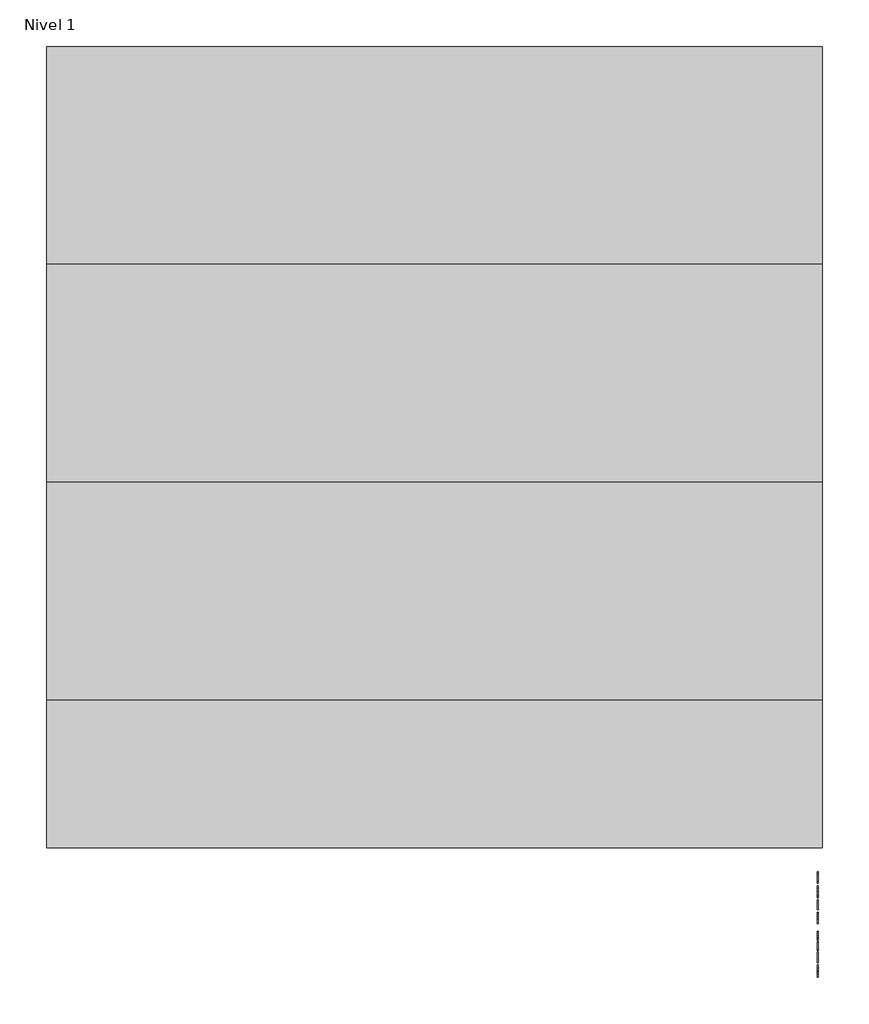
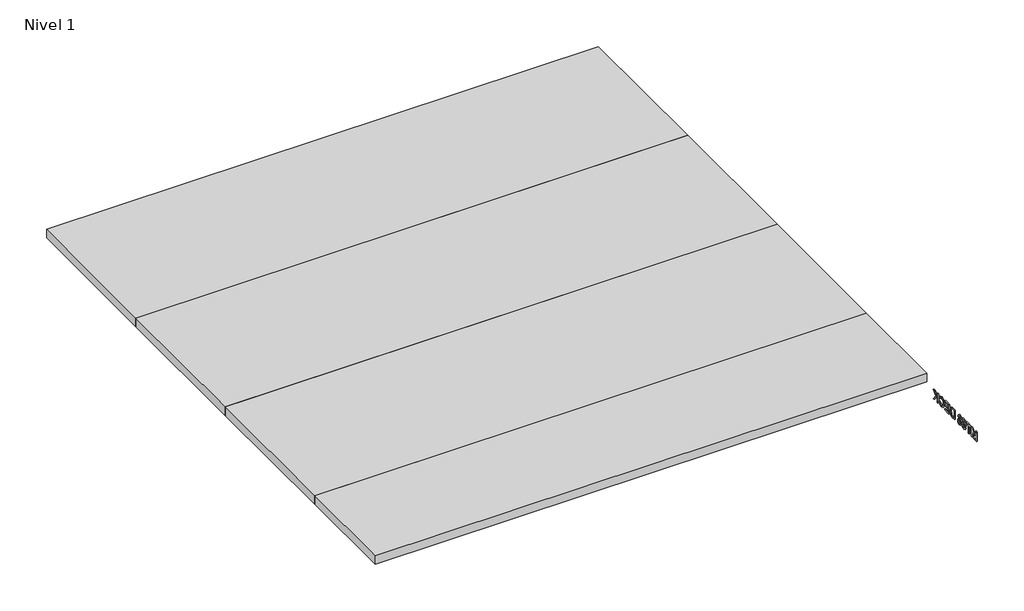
# One storey: 4 plates, 1 proxy.
"""IFC4 building model written with IfcOpenShell, lengths in millimetres."""

from ifc_helpers import new_model, si_unit, frame, origin, place, context, project, spatial, polyline, outline, extrude, transform, mapped, element, save
from components import panel_del_sistema_d37c4fc5, panel_del_sistema_70dac859

model = new_model("IFC4")

# Units and contexts
model_context = context("Model", 3, world=origin())
ifc_project = project(units=[si_unit("LENGTHUNIT", "METRE", prefix="MILLI")], contexts=[model_context])

# Site, building, storey
site = spatial("IfcSite", under=ifc_project)
building = spatial("IfcBuilding", under=site)
storey = spatial("IfcBuildingStorey", under=building, Name="Nivel 1", Elevation=0.0)

# Proxy
placement = place(None, origin())
element("IfcBuildingElementProxy", 1, Name="100mm Arial", ObjectType="100mm Arial", at=placement, inside=storey, context=model_context, shape_type="SweptSolid", body=[
    extrude(outline(polyline([(14730.9542925, -67.141573), (14730.9542925, -6.8677869), (14743.918454, -6.8677869), (14756.2498585, -49.3507997), (14758.7367408, -58.2241135), (14761.429637, -48.6150358), (14773.5550276, -6.8677869), (14786.5191891, -6.8677869), (14786.5191891, -67.141573), (14778.9849658, -67.141573), (14778.9849658, -14.4020102), (14763.8429429, -67.141573), (14753.6305387, -67.141573), (14738.4885158, -14.4020102), (14738.4885158, -67.141573), (14730.9542925, -67.141573)])), frame((9557.0230098, 0.0, 0.0), z_axis=(1.0, 0.0, 0.0), x_axis=(0.0, 1.0, 0.0)), (0.0, 0.0, 1.0), 5.0),
    extrude(outline(polyline([(14814.7725263, -67.141573), (14814.7725263, -14.4020102), (14794.9951902, -14.4020102), (14794.9951902, -6.8677869), (14842.0840856, -6.8677869), (14842.0840856, -14.4020102), (14822.3067496, -14.4020102), (14822.3067496, -67.141573), (14814.7725263, -67.141573)])), frame((9557.0230098, 0.0, 0.0), z_axis=(1.0, 0.0, 0.0), x_axis=(0.0, 1.0, 0.0)), (0.0, 0.0, 1.0), 5.0),
    extrude(outline(polyline([(14847.7347531, -51.1313486), (14855.2689763, -50.1895707), (14859.0655185, -57.9518808), (14866.9381932, -60.5491277), (14876.3854029, -56.9365265), (14879.7552019, -47.3495217), (14876.5987744, -38.4026316), (14867.0559155, -35.1211242), (14860.4413972, -36.4307841), (14856.2107542, -39.8300137), (14848.676531, -38.8882358), (14855.2689763, -7.8095648), (14884.4640915, -7.8095648), (14884.4640915, -15.3437881), (14861.3611022, -15.3437881), (14858.1384559, -31.9426237), (14869.1602005, -27.5869009), (14882.0434279, -32.9874086), (14887.2894252, -46.8786327), (14882.5658204, -60.8581486), (14875.7820764, -66.2770503), (14866.9087627, -68.0833509), (14853.6135074, -63.4406802), (14847.7347531, -51.1313486)])), frame((9557.0230098, 0.0, 0.0), z_axis=(1.0, 0.0, 0.0), x_axis=(0.0, 1.0, 0.0)), (0.0, 0.0, 1.0), 5.0),
    extrude(outline(polyline([(14932.4947648, -22.8780114), (14924.9605415, -23.8197893), (14922.1057772, -17.5363648), (14914.5568387, -14.4020102), (14907.7583794, -16.2267049), (14902.6153891, -23.0766676), (14900.4743159, -36.5043605), (14907.1182647, -30.4931687), (14915.3514638, -28.5286788), (14928.1537572, -33.8997559), (14933.4365427, -47.7762648), (14930.9496604, -58.17261), (14924.1070553, -65.5302499), (14914.2331025, -68.0833509), (14905.6853644, -66.3910938), (14898.877708, -61.3143222), (14894.4244965, -52.3527168), (14892.9400926, -39.005958), (14894.588204, -24.0000515), (14899.532538, -13.7398226), (14906.2831726, -8.5857959), (14915.0277276, -6.8677869), (14926.932389, -11.1205028), (14932.4947648, -22.8780114)]), holes=[polyline([(14900.4743159, -47.6585426), (14902.2180766, -54.1847692), (14906.8533897, -58.9230893), (14913.6444913, -60.5491277), (14922.5251627, -57.1793286), (14925.9023194, -48.0264246), (14922.5693085, -39.2634754), (14913.3354704, -36.0629021), (14904.2193546, -39.2634754), (14900.4743159, -47.6585426)])]), frame((9557.0230098, 0.0, 0.0), z_axis=(1.0, 0.0, 0.0), x_axis=(0.0, 1.0, 0.0)), (0.0, 0.0, 1.0), 5.0),
    extrude(outline(polyline([(14966.3987694, -67.141573), (14966.3987694, -6.8677869), (14987.1914598, -6.8677869), (14997.9483293, -7.7359884), (15006.8069278, -12.0475654), (15013.9438385, -22.3482613), (15016.3129985, -36.6809438), (15014.709033, -48.8431226), (15010.5887547, -57.620787), (15005.08524, -63.0875134), (14997.8821106, -66.1115034), (14988.1920988, -67.141573), (14966.3987694, -67.141573)]), holes=[polyline([(14973.9329927, -59.6073498), (14987.2650362, -59.6073498), (14996.9624056, -58.5184191), (15002.5542119, -55.4429256), (15007.1380216, -47.9602058), (15008.7787753, -36.5632216), (15005.5634866, -22.2894002), (14997.7423154, -15.6086631), (14987.0590223, -14.4020102), (14973.9329927, -14.4020102), (14973.9329927, -59.6073498)])]), frame((9557.0230098, 0.0, 0.0), z_axis=(1.0, 0.0, 0.0), x_axis=(0.0, 1.0, 0.0)), (0.0, 0.0, 1.0), 5.0),
    extrude(outline(polyline([(15026.6725555, -67.141573), (15026.6725555, -6.8677869), (15069.9943393, -6.8677869), (15069.9943393, -14.4020102), (15034.2067788, -14.4020102), (15034.2067788, -32.2957904), (15068.1107835, -32.2957904), (15068.1107835, -39.8300137), (15034.2067788, -39.8300137), (15034.2067788, -59.6073498), (15070.9361172, -59.6073498), (15070.9361172, -67.141573), (15026.6725555, -67.141573)])), frame((9557.0230098, 0.0, 0.0), z_axis=(1.0, 0.0, 0.0), x_axis=(0.0, 1.0, 0.0)), (0.0, 0.0, 1.0), 5.0),
    extrude(outline(polyline([(15124.6174579, -45.7161256), (15132.1516812, -47.6585426), (15123.2195063, -62.852069), (15107.4447264, -68.0833509), (15091.7655957, -64.1249407), (15082.5685459, -52.6617377), (15079.4121184, -36.5485063), (15082.9805737, -20.1703999), (15093.1267591, -9.5533255), (15107.6065945, -5.926009), (15122.6971139, -10.6201833), (15131.2099033, -23.8345046), (15123.67568, -25.6297687), (15117.4952625, -16.3665001), (15107.3122889, -13.4602323), (15095.5253497, -16.6828786), (15088.8666856, -25.3354631), (15086.9463416, -36.533791), (15089.2198523, -49.5126678), (15096.2979019, -57.804728), (15106.6942471, -60.5491277), (15118.2236688, -56.8114466), (15124.6174579, -45.7161256)])), frame((9557.0230098, 0.0, 0.0), z_axis=(1.0, 0.0, 0.0), x_axis=(0.0, 1.0, 0.0)), (0.0, 0.0, 1.0), 5.0),
    extrude(outline(polyline([(15142.5112382, -67.141573), (15142.5112382, -6.8677869), (15150.0454614, -6.8677869), (15150.0454614, -36.371923), (15180.947549, -6.8677869), (15191.4836894, -6.8677869), (15165.5406511, -31.6483181), (15192.4254673, -67.141573), (15183.2137021, -67.141573), (15160.1990045, -36.7398049), (15150.0454614, -46.4224591), (15150.0454614, -67.141573), (15142.5112382, -67.141573)])), frame((9557.0230098, 0.0, 0.0), z_axis=(1.0, 0.0, 0.0), x_axis=(0.0, 1.0, 0.0)), (0.0, 0.0, 1.0), 5.0),
])

# Plates
panel_del_sistema_shape = panel_del_sistema_d37c4fc5(model_context)
element("IfcPlate", 2, ObjectType="Panel del sistema : HIANSA - CHAPA PERFILADA CUBIERTA - MT56 DECK", at=placement, inside=storey, context=model_context, shape_type="MappedRepresentation", body=[
    mapped(panel_del_sistema_shape, transform((9579.0356399, 18322.3330794, -29.5962409), x_axis=(0.0, -1.0, 0.0), y_axis=(0.0, 0.0, 1.0), z_axis=(-1.0, 0.0, 0.0))),
])
element("IfcPlate", 3, ObjectType="Panel del sistema : HIANSA - CHAPA PERFILADA CUBIERTA - MT56 DECK", at=placement, inside=storey, context=model_context, shape_type="MappedRepresentation", body=[
    mapped(panel_del_sistema_shape, transform((9579.0356399, 17370.3330793, -29.5962409), x_axis=(0.0, -1.0, 0.0), y_axis=(0.0, 0.0, 1.0), z_axis=(-1.0, 0.0, 0.0))),
])
element("IfcPlate", 4, ObjectType="Panel del sistema : HIANSA - CHAPA PERFILADA CUBIERTA - MT56 DECK", at=placement, inside=storey, context=model_context, shape_type="MappedRepresentation", body=[
    mapped(panel_del_sistema_shape, transform((9579.0356399, 16418.3330793, -29.5962409), x_axis=(0.0, -1.0, 0.0), y_axis=(0.0, 0.0, 1.0), z_axis=(-1.0, 0.0, 0.0))),
])
panel_del_sistema_2_shape = panel_del_sistema_70dac859(model_context)
element("IfcPlate", 5, ObjectType="Panel del sistema : HIANSA - CHAPA PERFILADA CUBIERTA - MT56 DECK", at=placement, inside=storey, context=model_context, shape_type="MappedRepresentation", body=[
    mapped(panel_del_sistema_2_shape, transform((9579.0356399, 15620.3330794, -29.5962409), x_axis=(0.0, -1.0, 0.0), y_axis=(0.0, 0.0, 1.0), z_axis=(-1.0, 0.0, 0.0))),
])

save(model, "model.ifc")
